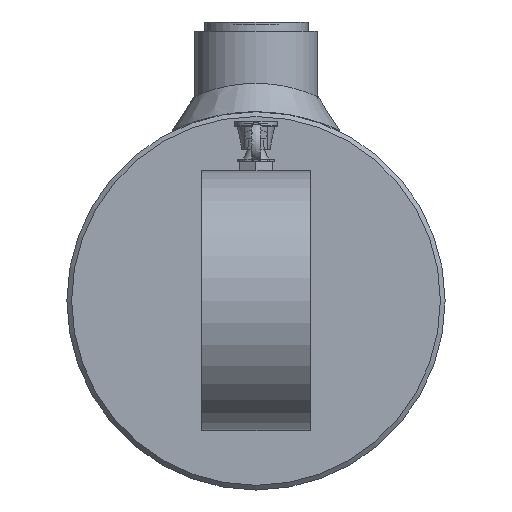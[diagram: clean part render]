
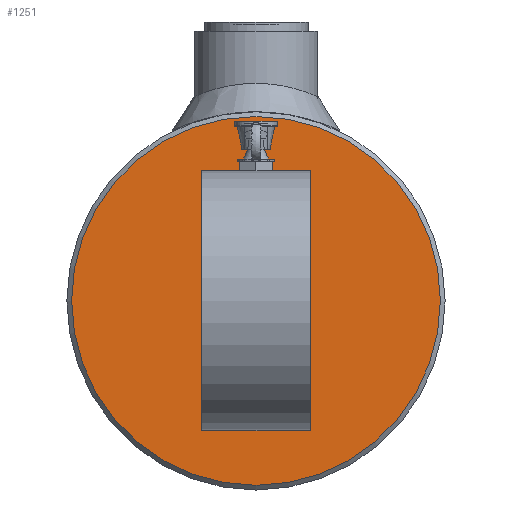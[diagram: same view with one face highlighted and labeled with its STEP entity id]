
A CAD part, left-side view. The second image highlights one B-rep face of the part: STEP entity #1251.
In plain terms, the highlighted planar face has unit normal (-1, 0, 0).
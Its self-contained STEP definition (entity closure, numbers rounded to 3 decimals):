
#1251 = ADVANCED_FACE( '', ( #2343 ), #2344, .T. );
#2343 = FACE_OUTER_BOUND( '', #5892, .T. );
#2344 = PLANE( '', #5893 );
#5892 = EDGE_LOOP( '', ( #8351 ) );
#5893 = AXIS2_PLACEMENT_3D( '', #8352, #8353, #8354 );
#8351 = ORIENTED_EDGE( '', *, *, #9231, .T. );
#8352 = CARTESIAN_POINT( '', ( -12., 0., 0. ) );
#8353 = DIRECTION( '', ( -1., 0., 0. ) );
#8354 = DIRECTION( '', ( 0., -1., 0. ) );
#9231 = EDGE_CURVE( '', #10109, #10109, #10110, .T. );
#10109 = VERTEX_POINT( '', #11155 );
#10110 = CIRCLE( '', #11156, 39. );
#11155 = CARTESIAN_POINT( '', ( -12., -39., 0. ) );
#11156 = AXIS2_PLACEMENT_3D( '', #13519, #13520, #13521 );
#13519 = CARTESIAN_POINT( '', ( -12., 0., 0. ) );
#13520 = DIRECTION( '', ( -1., 0., 0. ) );
#13521 = DIRECTION( '', ( 0., -1., 0. ) );
